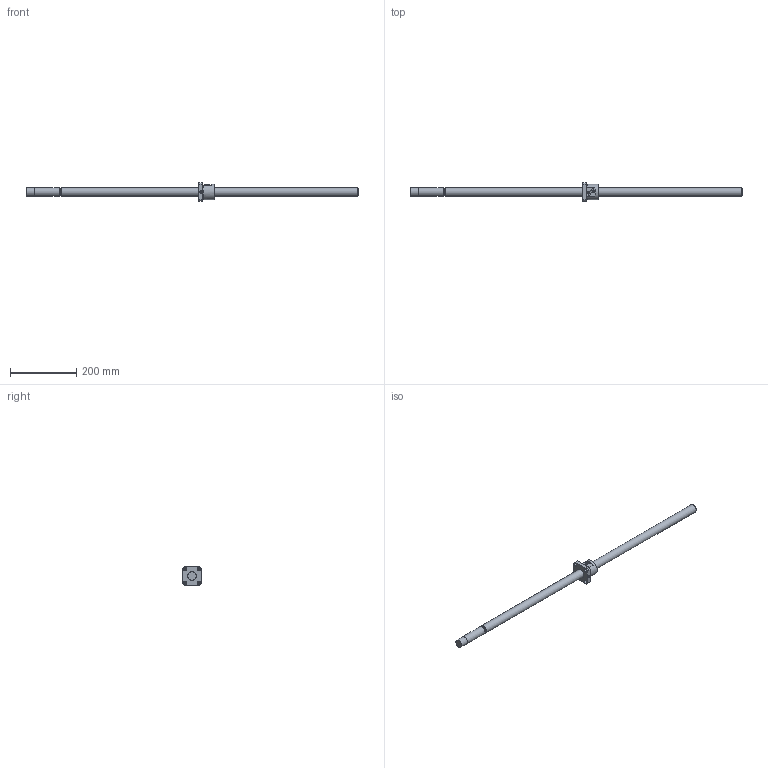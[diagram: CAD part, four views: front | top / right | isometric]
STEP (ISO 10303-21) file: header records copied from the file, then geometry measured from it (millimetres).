
FILE_DESCRIPTION((''),'2;1');
FILE_NAME('D:\製品 (図面)\カタログ用3D\ネジ関連\STEP形式\KBS(C)\KBS(C)2505-1000.stp','2010-06-02T14:19:48',('Tsuchiya'),(''),'Autodesk Inventor 10','Autodesk Inventor 10','');
FILE_SCHEMA(('AUTOMOTIVE_DESIGN { 1 0 10303 214 1 1 1 1 }'));
Length unit declared in the file: millimetre
Products named in the file (3): KBS(C)2505-1000; KBS(C)2505-10001; KBS(C)2505-10002
Assembly tree (2 placements, depth 2):
  KBS(C)2505-1000
    KBS(C)2505-10001
    KBS(C)2505-10002
Bounding box: 1000 x 57 x 57 mm (x, y, z)
Volume: 559789.1 mm3; surface area: 98702.4 mm2
Topology: 2 solids, 2 shells, 95 faces, 243 edges, 160 vertices
Faces by surface type: plane 42, cylinder 31, bspline 16, cone 4, torus 2
Full cylindrical faces by diameter (mm): 3.2 x1, 5.6 x1, 6 x1, 6.6 x4, 11 x4, 22.5 x1, 24.5 x1, 25 x3, 27 x2, 47 x1
Entity records: 3006 total; most frequent: CARTESIAN_POINT 805, DIRECTION 418, ORIENTED_EDGE 408, EDGE_CURVE 204, AXIS2_PLACEMENT_3D 156, VERTEX_POINT 150, EDGE_LOOP 150, VECTOR 106
